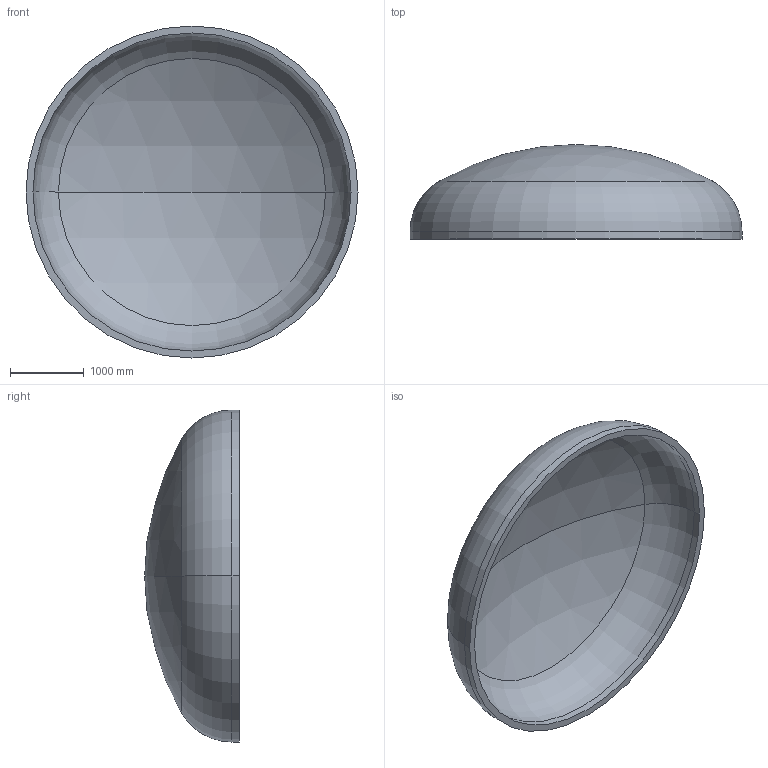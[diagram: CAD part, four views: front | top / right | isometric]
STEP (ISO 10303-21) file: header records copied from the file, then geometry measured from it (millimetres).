
FILE_DESCRIPTION (( 'STEP AP203' ), '1' );
FILE_NAME ('DIN 28013 Korbbogenform_-_Boden DIN 28013 - 4500 x 100 - I - s=94.step', '2016-07-01T23:48:58', ( '' ), ( '' ), 'SwSTEP 2.0', 'SolidWorks 2013', '' );
FILE_SCHEMA (( 'CONFIG_CONTROL_DESIGN' ));
Length unit declared in the file: millimetre
Products named in the file (1): DIN 28013 Korbbogenform_-_Boden DIN 28013 - 4500 x 100 - I - s=94
Bounding box: 4500 x 1283.12 x 4500 mm (x, y, z)
Volume: 2145699548.2 mm3; surface area: 46972806.3 mm2
Topology: 1 solids, 1 shells, 13 faces, 24 edges, 14 vertices
Faces by surface type: torus 4, cylinder 4, sphere 4, plane 1
Entity records: 407 total; most frequent: DIRECTION 72, CARTESIAN_POINT 52, ORIENTED_EDGE 48, AXIS2_PLACEMENT_3D 34, EDGE_CURVE 24, CIRCLE 20, VERTEX_POINT 14, EDGE_LOOP 14
